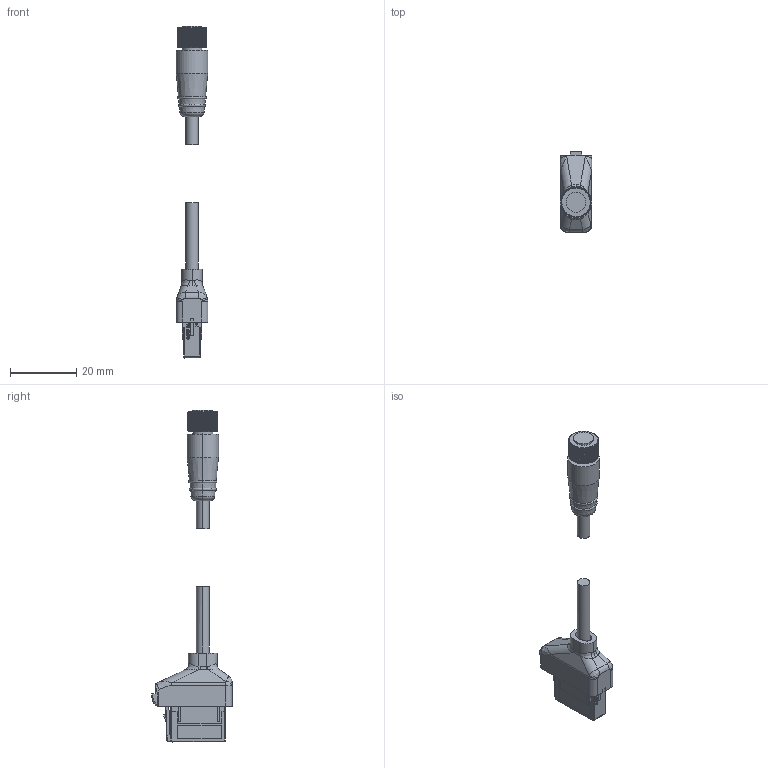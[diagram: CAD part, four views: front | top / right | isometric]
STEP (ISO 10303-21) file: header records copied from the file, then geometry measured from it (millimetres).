
FILE_DESCRIPTION (( 'STEP AP203' ), '1' );
FILE_NAME ('SA-SD-SHxM_step_01.STEP', '2020-01-26T23:47:04', ( '' ), ( '' ), 'SwSTEP 2.0', 'SolidWorks 2016', '' );
FILE_SCHEMA (( 'CONFIG_CONTROL_DESIGN' ));
Length unit declared in the file: millimetre
Products named in the file (3): SA-SD-SHxM_step_01; アブソ_コネクタケーブル_hp; e-con側コネクタケーブル_hp
Assembly tree (2 placements, depth 2):
  SA-SD-SHxM_step_01
    アブソ_コネクタケーブル_hp
    e-con側コネクタケーブル_hp
Bounding box: 9.6 x 24.2 x 100.01 mm (x, y, z)
Volume: 4495.5 mm3; surface area: 4304.7 mm2
Topology: 3 solids, 3 shells, 1141 faces, 3150 edges, 2011 vertices
Faces by surface type: plane 673, cylinder 265, bspline 169, torus 14, cone 12, sphere 8
Entity records: 41229 total; most frequent: CARTESIAN_POINT 13805, ORIENTED_EDGE 6264, DIRECTION 4797, EDGE_CURVE 3132, VERTEX_POINT 2011, VECTOR 1935, LINE 1935, AXIS2_PLACEMENT_3D 1431
